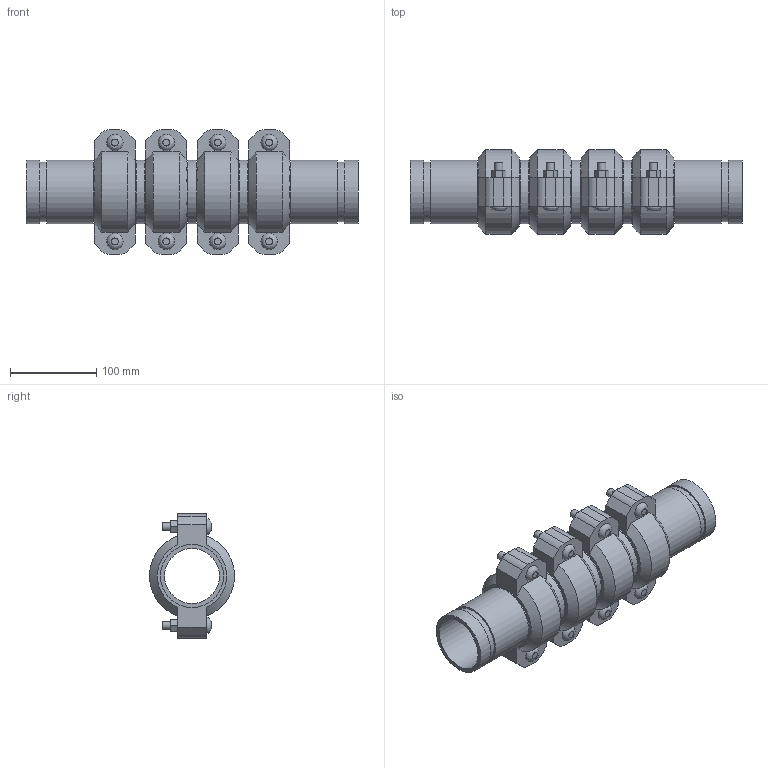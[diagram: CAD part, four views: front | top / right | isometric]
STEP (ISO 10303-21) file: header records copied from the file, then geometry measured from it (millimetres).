
FILE_DESCRIPTION(/* description */ ('VIC SS EXPANSION JOINT 4 COUPLINGS NEUTRAL STYLE 155P (OGS) (POTABLE WATER) ','CAx-IF Rec.Pracs.---Representation and Presentation of Product Manufacturing Information (PMI)---4.0---2014-10-13'),/* implementation_level */ '2;1');
FILE_NAME(/* name */ 'C:\Users\kkamble\AppData\Roaming\Autodesk\ApplicationPlugins\Victaulic.Temp\A324\Victaulic_SS_Expansion Joint_Neutral_4 Couplings_Style 155P (OGS)-Potable Water_4 Coup_Neut_2.5 (65).stp',/* time_stamp */ '2021-07-16T16:33:25+05:00',/* author */ ('kkamble'),/* organization */ ('Victaulic'),/* preprocessor_version */ 'ST-DEVELOPER v17.2',/* originating_system */ 'Autodesk Inventor 2019',/* authorisation */ '');
FILE_SCHEMA (('AP242_MANAGED_MODEL_BASED_3D_ENGINEERING_MIM_LF { 1 0 10303 442 1 1 4 }'));
Length unit declared in the file: inch
Products named in the file (4): 155P-02.5; Nipple-02.5; Nipple-02.5_1; 075-02.5
Assembly tree (9 placements, depth 2):
  155P-02.5
    Nipple-02.5  x2
    Nipple-02.5_1  x3
    075-02.5  x4
Bounding box: 384.05 x 98.22 x 144.27 mm (x, y, z)
Volume: 1211082.1 mm3; surface area: 354812.5 mm2
Topology: 9 solids, 17 shells, 288 faces, 682 edges, 480 vertices
Faces by surface type: plane 174, cylinder 90, cone 16, bspline 8
Full cylindrical faces by diameter (mm): 9.525 x16, 11.43 x8, 63.475 x5, 66.675 x4, 69.088 x10, 73.025 x23
Entity records: 2785 total; most frequent: CARTESIAN_POINT 493, DIRECTION 461, ORIENTED_EDGE 386, EDGE_CURVE 193, AXIS2_PLACEMENT_3D 184, VERTEX_POINT 138, EDGE_LOOP 107, LINE 93
